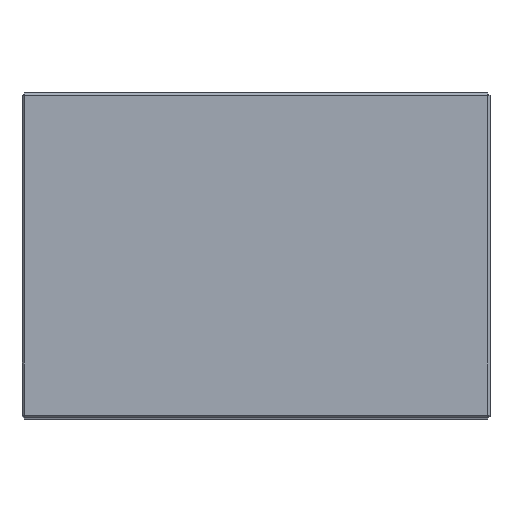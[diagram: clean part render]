
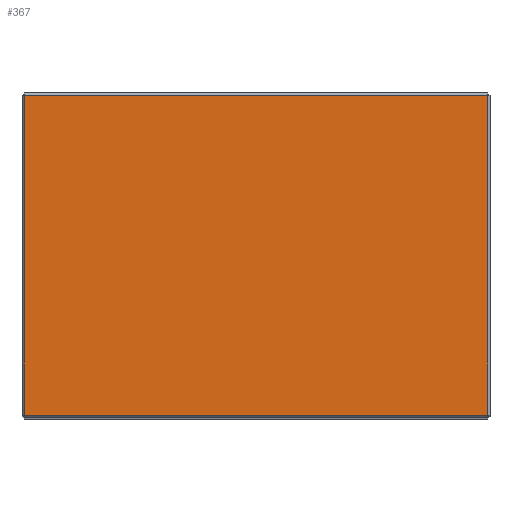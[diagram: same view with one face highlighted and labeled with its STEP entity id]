
A CAD part, top view. The second image highlights one B-rep face of the part: STEP entity #367.
In plain terms, the highlighted planar face has unit normal (0, 0, 1).
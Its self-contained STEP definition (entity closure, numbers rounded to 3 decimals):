
#2 = CARTESIAN_POINT ( 'NONE',  ( -97., 1., 198. ) ) ;
#8 = VECTOR ( 'NONE', #366, 1000. ) ;
#10 = CARTESIAN_POINT ( 'NONE',  ( -97., 136., 198. ) ) ;
#20 = LINE ( 'NONE', #201, #8 ) ;
#27 = ORIENTED_EDGE ( 'NONE', *, *, #623, .T. ) ;
#33 = DIRECTION ( 'NONE',  ( 0., 1., 0. ) ) ;
#36 = VERTEX_POINT ( 'NONE', #500 ) ;
#42 = VECTOR ( 'NONE', #564, 1000. ) ;
#105 = CARTESIAN_POINT ( 'NONE',  ( -98., 135., 198. ) ) ;
#106 = DIRECTION ( 'NONE',  ( -1., 0., 0. ) ) ;
#123 = EDGE_LOOP ( 'NONE', ( #134, #27, #556, #176 ) ) ;
#124 = LINE ( 'NONE', #10, #42 ) ;
#131 = VERTEX_POINT ( 'NONE', #377 ) ;
#134 = ORIENTED_EDGE ( 'NONE', *, *, #229, .T. ) ;
#164 = VERTEX_POINT ( 'NONE', #645 ) ;
#176 = ORIENTED_EDGE ( 'NONE', *, *, #184, .T. ) ;
#183 = VERTEX_POINT ( 'NONE', #2 ) ;
#184 = EDGE_CURVE ( 'NONE', #164, #131, #604, .T. ) ;
#201 = CARTESIAN_POINT ( 'NONE',  ( 98., 1., 198. ) ) ;
#210 = AXIS2_PLACEMENT_3D ( 'NONE', #547, #628, #625 ) ;
#229 = EDGE_CURVE ( 'NONE', #131, #36, #459, .T. ) ;
#366 = DIRECTION ( 'NONE',  ( 1., 0., 0. ) ) ;
#367 = ADVANCED_FACE ( 'NONE', ( #571 ), #620, .F. ) ;
#377 = CARTESIAN_POINT ( 'NONE',  ( 97., 135., 198. ) ) ;
#411 = VECTOR ( 'NONE', #106, 1000. ) ;
#459 = LINE ( 'NONE', #105, #411 ) ;
#500 = CARTESIAN_POINT ( 'NONE',  ( -97., 135., 198. ) ) ;
#547 = CARTESIAN_POINT ( 'NONE',  ( 98., 136., 198. ) ) ;
#556 = ORIENTED_EDGE ( 'NONE', *, *, #638, .T. ) ;
#564 = DIRECTION ( 'NONE',  ( 0., -1., 0. ) ) ;
#571 = FACE_OUTER_BOUND ( 'NONE', #123, .T. ) ;
#586 = CARTESIAN_POINT ( 'NONE',  ( 97., 136., 198. ) ) ;
#588 = VECTOR ( 'NONE', #33, 1000. ) ;
#604 = LINE ( 'NONE', #586, #588 ) ;
#620 = PLANE ( 'NONE',  #210 ) ;
#623 = EDGE_CURVE ( 'NONE', #36, #183, #124, .T. ) ;
#625 = DIRECTION ( 'NONE',  ( -1., 0., 0. ) ) ;
#628 = DIRECTION ( 'NONE',  ( 0., 0., -1. ) ) ;
#638 = EDGE_CURVE ( 'NONE', #183, #164, #20, .T. ) ;
#645 = CARTESIAN_POINT ( 'NONE',  ( 97., 1., 198. ) ) ;
